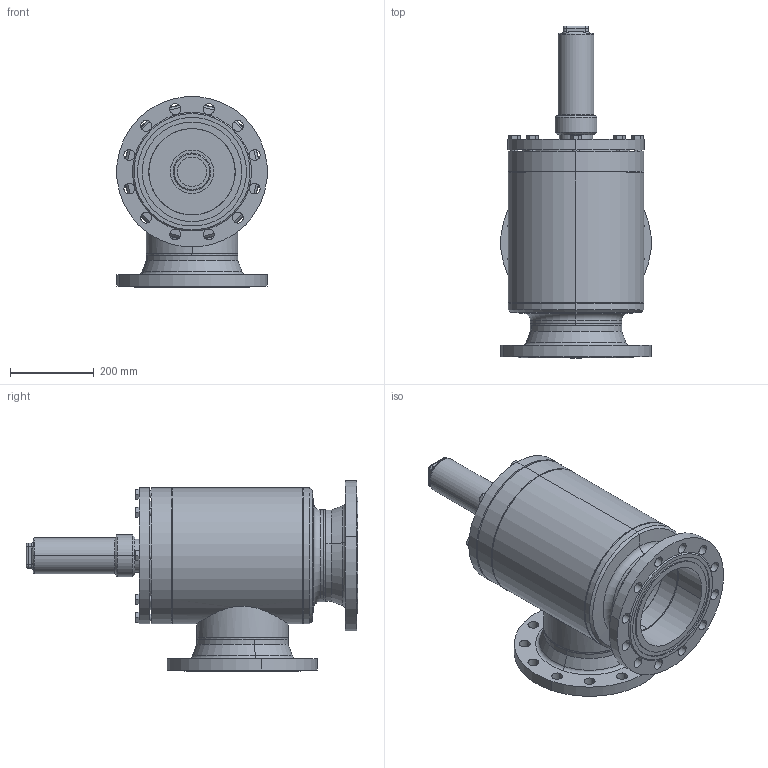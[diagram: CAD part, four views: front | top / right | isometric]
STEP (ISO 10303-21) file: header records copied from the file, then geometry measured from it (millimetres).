
FILE_DESCRIPTION (( 'STEP AP214' ), '1' );
FILE_NAME ('AVR26420C23-DN200_DIN-FL-N_PS25.STEP', '2006-04-27T13:45:16', ( 'Herr Grams' ), ( 'AWP GmbH' ), 'SwSTEP 2.0', 'SolidWorks 2002296', '' );
FILE_SCHEMA (( 'AUTOMOTIVE_DESIGN' ));
Length unit declared in the file: millimetre
Products named in the file (19): AVR26420C23-DN200_DIN-FL-N_PS25; AVR26300B23_Deck+Schr-DN200_Standard; Deckel-kpl26300B23-DN200_Standard; Scheibe f Deckel16300-DN200_Standard; Buchse f Deckel16300-DN200_Standard; bead-deck263-200_Standard; bead-deck264-200_Standard; Sechskantschraube-DIN933_M16x 45; Gehäuse-kpl16420-DN200_DIN_PS25_Standard; Gehäuse16300-DN200_Standard; Kopfstück16300-DN200_Standard; Boden16300-DN200_Standard; Flansch-DIN2634-Nut_PS25_DIN-Flansch-DN200_PS25-Nut; Rohrstutzen-A16300-DN200_R1_Standard; bead-DN200-3_Standard; bead-DN200-4_Standard; bead-DN200-1_Standard; bead-DN200-2_Standard; Kappe16402_DN200-350_Standard
Assembly tree (26 placements, depth 4):
  AVR26420C23-DN200_DIN-FL-N_PS25
    AVR26300B23_Deck+Schr-DN200_Standard
      Sechskantschraube-DIN933_M16x 45  x8
      Deckel-kpl26300B23-DN200_Standard
        Buchse f Deckel16300-DN200_Standard
        bead-deck264-200_Standard
        bead-deck263-200_Standard
        Scheibe f Deckel16300-DN200_Standard
    Gehäuse-kpl16420-DN200_DIN_PS25_Standard
      Kopfstück16300-DN200_Standard
      Gehäuse16300-DN200_Standard
      Boden16300-DN200_Standard
      bead-DN200-4_Standard
      Flansch-DIN2634-Nut_PS25_DIN-Flansch-DN200_PS25-Nut  x2
      Rohrstutzen-A16300-DN200_R1_Standard
      bead-DN200-1_Standard
      bead-DN200-2_Standard
      bead-DN200-3_Standard
    Kappe16402_DN200-350_Standard
Bounding box: 358.63 x 793 x 455.31 mm (x, y, z)
Volume: 15713626.1 mm3; surface area: 2177385.2 mm2
Topology: 23 solids, 23 shells, 494 faces, 1132 edges, 686 vertices
Faces by surface type: cylinder 173, cone 146, plane 129, bspline 30, torus 16
Entity records: 21926 total; most frequent: CARTESIAN_POINT 14679, DIRECTION 1384, ORIENTED_EDGE 1256, EDGE_CURVE 628, AXIS2_PLACEMENT_3D 605, VERTEX_POINT 390, EDGE_LOOP 340, CIRCLE 332
